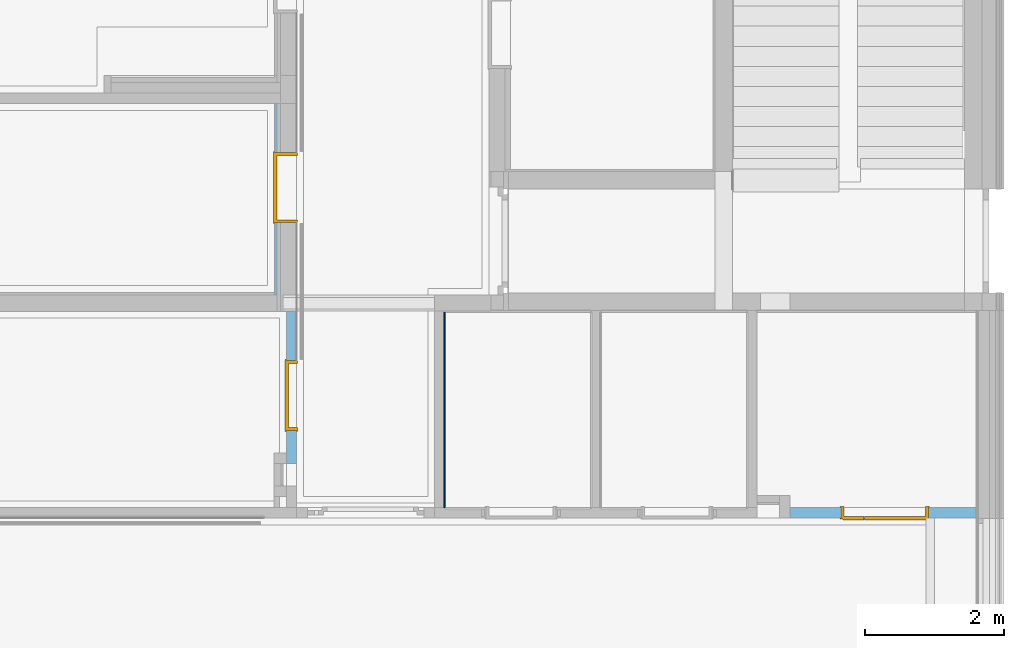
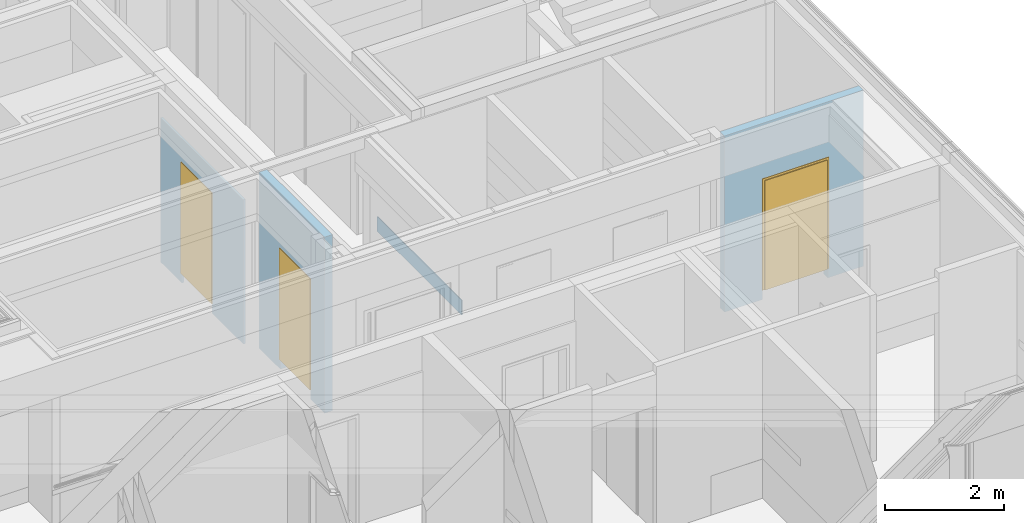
# One storey, part 140 of 207: 3 doors, 1 wall, 3 openings, plus 3 elements that do not belong to this part.
"""IFC4 building model written with IfcOpenShell, lengths in metres."""

import ifcopenshell
import ifcopenshell.guid

model = None  # the IFC model being written
_history = None  # IfcOwnerHistory: only IFC2X3 demands one
_inside = {}  # id of a spatial element -> (the spatial element, [elements in it])
_under = {}  # id of a project, library or spatial element -> (it, [spatial elements below it])
_declared = {}  # id of a project -> (the project, [libraries it declares])
_typed = {}  # id of a type object -> (the type object, [elements of that type])
_made_of = {}  # id of a material, layer set ... -> (it, [elements and type objects made of it])


def new_model(schema):
    """Start an empty IFC model of exactly this schema.

    Asked for "IFC4X3", IfcOpenShell would pick the latest addendum, in which some entities
    have other attributes; the version numbers below select the first issue.
    IFC2X3 requires an IfcOwnerHistory on every rooted entity: one is made here for all.
    """
    global model, _history
    if schema == "IFC4X3":
        model = ifcopenshell.file(schema_version=(4, 3, 0, 0))
    else:
        model = ifcopenshell.file(schema=schema)
    _inside.clear()
    _under.clear()
    _declared.clear()
    _typed.clear()
    _made_of.clear()
    _history = None
    if model.schema == "IFC2X3":
        org = make("IfcOrganization", Name="unknown")
        user = make(
            "IfcPersonAndOrganization",
            ThePerson=make("IfcPerson", FamilyName="unknown"),
            TheOrganization=org,
        )
        app = make(
            "IfcApplication",
            ApplicationDeveloper=org,
            Version="unknown",
            ApplicationFullName="unknown",
            ApplicationIdentifier="unknown",
        )
        _history = make(
            "IfcOwnerHistory",
            OwningUser=user,
            OwningApplication=app,
            ChangeAction="ADDED",
            CreationDate=0,
        )
    return model


def make(cls, **values):
    """One entity of the class cls with the attributes given. An attribute that is None is left unset."""
    return model.create_entity(
        cls, **{name: value for name, value in values.items() if value is not None}
    )


def entity(cls, *values):
    """Any entity or typed value of the class cls, its attributes in the order of the schema. None: left unset."""
    e = model.create_entity(cls)
    for i, value in enumerate(values):
        if value is not None:
            e[i] = value
    return e


def rooted(cls, **values):
    """An entity with a GlobalId (a new one), such as an element, a storey or a relation."""
    return make(cls, GlobalId=ifcopenshell.guid.new(), OwnerHistory=_history, **values)


def si_unit(unit_type, name, prefix=None):
    """IfcSIUnit, for example si_unit("LENGTHUNIT", "METRE", prefix="MILLI")."""
    return make("IfcSIUnit", UnitType=unit_type, Prefix=prefix, Name=name)


def converted_unit(unit_type, name, factor, base, dimensions=None, offset=None):
    """IfcConversionBasedUnit, such as the inch: factor (a typed value) times the base unit."""
    return make(
        "IfcConversionBasedUnit"
        if offset is None
        else "IfcConversionBasedUnitWithOffset",
        ConversionOffset=offset,
        Dimensions=None
        if dimensions is None
        else entity("IfcDimensionalExponents", *dimensions),
        UnitType=unit_type,
        Name=name,
        ConversionFactor=make(
            "IfcMeasureWithUnit", ValueComponent=factor, UnitComponent=base
        ),
    )


def derived_unit(unit_type, elements):
    """IfcDerivedUnit: a product of units, each with its exponent."""
    return make(
        "IfcDerivedUnit",
        Elements=[
            make("IfcDerivedUnitElement", Unit=unit, Exponent=power)
            for unit, power in elements
        ],
        UnitType=unit_type,
    )


def assignment(units):
    """IfcUnitAssignment: the units of a project."""
    return None if units is None else make("IfcUnitAssignment", Units=units)


def point(xyz):
    """IfcCartesianPoint."""
    return None if xyz is None else make("IfcCartesianPoint", Coordinates=xyz)


def direction(xyz):
    """IfcDirection."""
    return None if xyz is None else make("IfcDirection", DirectionRatios=xyz)


def frame(location, z_axis=None, x_axis=None):
    """IfcAxis2Placement3D, a coordinate frame: its origin and axes. An axis left out is left unset."""
    return make(
        "IfcAxis2Placement3D",
        Location=point(location),
        Axis=direction(z_axis),
        RefDirection=direction(x_axis),
    )


def frame_2d(location, x_axis=None):
    """IfcAxis2Placement2D, a coordinate frame in the plane: its origin and x axis."""
    return make(
        "IfcAxis2Placement2D", Location=point(location), RefDirection=direction(x_axis)
    )


def origin():
    """The frame at (0, 0, 0) with its axes left unset."""
    return frame((0.0, 0.0, 0.0))


def origin_with_axes():
    """The frame at (0, 0, 0) with the z axis (0, 0, 1) and the x axis (1, 0, 0) written out."""
    return frame((0.0, 0.0, 0.0), z_axis=(0.0, 0.0, 1.0), x_axis=(1.0, 0.0, 0.0))


def place(relative_to, where):
    """IfcLocalPlacement: puts the frame where relative to a parent placement (None: the world)."""
    return make(
        "IfcLocalPlacement", PlacementRelTo=relative_to, RelativePlacement=where
    )


def context(
    kind, dimensions, precision=None, world=None, true_north=None, identifier=None
):
    """IfcGeometricRepresentationContext, for example the 3D "Model" context."""
    return make(
        "IfcGeometricRepresentationContext",
        ContextIdentifier=identifier,
        ContextType=kind,
        CoordinateSpaceDimension=dimensions,
        Precision=precision,
        WorldCoordinateSystem=world,
        TrueNorth=true_north,
    )


def subcontext(parent, identifier, kind, view, scale=None):
    """IfcGeometricRepresentationSubContext, for example "Body" below "Model"."""
    return make(
        "IfcGeometricRepresentationSubContext",
        ContextIdentifier=identifier,
        ContextType=kind,
        ParentContext=parent,
        TargetScale=scale,
        TargetView=view,
    )


def project(units=None, contexts=None):
    """IfcProject with its units and contexts."""
    return rooted(
        "IfcProject",
        Name="project",
        RepresentationContexts=contexts,
        UnitsInContext=assignment(units),
    )


def spatial(cls, under=None, at=None, **own):
    """A site, building, storey or space (cls), placed at a placement, below another one or the project."""
    s = rooted(cls, ObjectPlacement=at, **own)
    if under is not None:
        _under.setdefault(under.id(), (under, []))[1].append(s)
    return s


def polyline(points):
    """IfcPolyline through the points."""
    return make("IfcPolyline", Points=[point(p) for p in points])


def profile(cls, at=None, kind="AREA", **sizes):
    """A parametric profile (cls). Its sizes go by their IFC names, for example OverallWidth=200.0."""
    return make(cls, ProfileType=kind, Position=at, **sizes)


def rectangle(**sizes):
    """IfcRectangleProfileDef."""
    return profile("IfcRectangleProfileDef", **sizes)


def outline(outer, holes=None, kind="AREA"):
    """IfcArbitraryClosedProfileDef: a profile drawn as a closed curve; with holes, ...WithVoids."""
    if holes is None:
        return make("IfcArbitraryClosedProfileDef", ProfileType=kind, OuterCurve=outer)
    return make(
        "IfcArbitraryProfileDefWithVoids",
        ProfileType=kind,
        OuterCurve=outer,
        InnerCurves=holes,
    )


def extrude(swept, where, along, depth):
    """IfcExtrudedAreaSolid: the profile swept, set in the frame where, extruded along a direction by depth."""
    return make(
        "IfcExtrudedAreaSolid",
        SweptArea=swept,
        Position=where,
        ExtrudedDirection=direction(along),
        Depth=depth,
    )


def faces_of(points, faces, orient=None, outer=None):
    """IfcFace entities. A face is a list of loops; a loop is a list of indices into points, from 0.

    orient and outer hold one flag for each loop. By default every Orientation is true, the
    first loop of a face is its IfcFaceOuterBound and the others are IfcFaceBound.
    """
    made = []
    for i, loops in enumerate(faces):
        bounds = []
        for j, loop in enumerate(loops):
            is_outer = j == 0 if outer is None else outer[i][j]
            bounds.append(
                make(
                    "IfcFaceOuterBound" if is_outer else "IfcFaceBound",
                    Bound=make("IfcPolyLoop", Polygon=[points[k] for k in loop]),
                    Orientation=True if orient is None else orient[i][j],
                )
            )
        made.append(make("IfcFace", Bounds=bounds))
    return made


def faceted_brep(points, faces, orient=None, outer=None, voids=None):
    """IfcFacetedBrep: a solid bounded by flat faces; with voids (closed shells), ...WithVoids."""
    shared = [point(p) for p in points]
    hull = make("IfcClosedShell", CfsFaces=faces_of(shared, faces, orient, outer))
    if voids is None:
        return make("IfcFacetedBrep", Outer=hull)
    return make(
        "IfcFacetedBrepWithVoids",
        Outer=hull,
        Voids=[
            make(cls, CfsFaces=faces_of(shared, fs, o, b)) for cls, fs, o, b in voids
        ],
    )


def shape(context_of_items, identifier, shape_type, items):
    """IfcShapeRepresentation: the items that make up one representation, for example the "Body"."""
    return make(
        "IfcShapeRepresentation",
        ContextOfItems=context_of_items,
        RepresentationIdentifier=identifier,
        RepresentationType=shape_type,
        Items=items,
    )


def source(mapping_origin, context_of_items, identifier, shape_type, items):
    """IfcRepresentationMap: a shape defined once, which mapped items show again and again."""
    return make(
        "IfcRepresentationMap",
        MappingOrigin=mapping_origin,
        MappedRepresentation=shape(context_of_items, identifier, shape_type, items),
    )


def transform(
    local_origin,
    x_axis=None,
    y_axis=None,
    z_axis=None,
    scale=None,
    scale2=None,
    scale3=None,
    uniform=True,
):
    """IfcCartesianTransformationOperator3D, or its non-uniform kind. x_axis, y_axis, z_axis: its Axis1, 2, 3."""
    if uniform:
        return make(
            "IfcCartesianTransformationOperator3D",
            Axis1=direction(x_axis),
            Axis2=direction(y_axis),
            LocalOrigin=point(local_origin),
            Scale=scale,
            Axis3=direction(z_axis),
        )
    return make(
        "IfcCartesianTransformationOperator3DnonUniform",
        Axis1=direction(x_axis),
        Axis2=direction(y_axis),
        LocalOrigin=point(local_origin),
        Scale=scale,
        Axis3=direction(z_axis),
        Scale2=scale2,
        Scale3=scale3,
    )


def mapped(mapping_source, mapping_target):
    """IfcMappedItem: shows the shape of a source again, moved by a transform."""
    return make(
        "IfcMappedItem", MappingSource=mapping_source, MappingTarget=mapping_target
    )


def material(Name=None, Category=None):
    """IfcMaterial."""
    return make("IfcMaterial", Name=Name, Category=Category)


def made_of(thing, what):
    """Note that an element or type object is made of a material, layer set ...; save() writes the relation."""
    if what is not None:
        _made_of.setdefault(what.id(), (what, []))[1].append(thing)
    return thing


def type_object(cls, material=None, **own):
    """A type object (cls), such as IfcWallType, which elements share."""
    return made_of(rooted(cls, **own), material)


def element(
    cls,
    number,
    at=None,
    inside=None,
    cuts=None,
    type_object=None,
    material=None,
    context=None,
    identifier="Body",
    shape_type=None,
    held_by="IfcProductDefinitionShape",
    body=None,
    shapes=None,
    **own,
):
    """One element of the class cls, such as IfcWall. Its Tag is "e" and its number.

    at: its placement. inside: the storey or other place that contains it. cuts: it is an
    opening in that element (IfcRelVoidsElement). A single representation is given by context,
    identifier, shape_type and body (its items); several are given by shapes. held_by: the class
    of the entity that holds the representations. save() writes the other relations.
    """
    e = rooted(cls, Tag="e%d" % number, ObjectPlacement=at, **own)
    if body is not None:
        shapes = [shape(context, identifier, shape_type, body)]
    if shapes is not None:
        e.Representation = make(held_by, Representations=shapes)
    if inside is not None:
        _inside.setdefault(inside.id(), (inside, []))[1].append(e)
    if cuts is not None:
        rooted(
            "IfcRelVoidsElement", RelatingBuildingElement=cuts, RelatedOpeningElement=e
        )
    if type_object is not None:
        _typed.setdefault(type_object.id(), (type_object, []))[1].append(e)
    return made_of(e, material)


def fill(opening, filler):
    """IfcRelFillsElement: the door or window that sits in an opening."""
    return rooted(
        "IfcRelFillsElement",
        RelatingOpeningElement=opening,
        RelatedBuildingElement=filler,
    )


def aggregate(whole, parts):
    """IfcRelAggregates: a whole, such as a stair, and the parts it consists of."""
    return rooted("IfcRelAggregates", RelatingObject=whole, RelatedObjects=parts)


def save(model, path):
    """Write the relations noted so far, then the file.

    IfcRelAggregates (storeys below a building ...), IfcRelContainedInSpatialStructure (elements
    in a storey), IfcRelDefinesByType, IfcRelAssociatesMaterial and IfcRelDeclares: one each for
    every whole, place, type object, material and project.
    """
    for whole, parts in _under.values():
        aggregate(whole, parts)
    for where, things in _inside.values():
        rooted(
            "IfcRelContainedInSpatialStructure",
            RelatedElements=things,
            RelatingStructure=where,
        )
    for kind, things in _typed.values():
        rooted("IfcRelDefinesByType", RelatedObjects=things, RelatingType=kind)
    for what, things in _made_of.values():
        rooted("IfcRelAssociatesMaterial", RelatedObjects=things, RelatingMaterial=what)
    for by, libraries in _declared.values():
        rooted("IfcRelDeclares", RelatingContext=by, RelatedDefinitions=libraries)
    model.write(path)


model = new_model("IFC4")

# Units and contexts
model_context = context("Model", 3, precision=1e-05, world=origin())
body_context = subcontext(model_context, "Body", "Model", "MODEL_VIEW")
ifc_project = project(units=[si_unit("LENGTHUNIT", "METRE"), si_unit("AREAUNIT", "SQUARE_METRE"), si_unit("VOLUMEUNIT", "CUBIC_METRE"), si_unit("MASSUNIT", "GRAM", prefix="KILO"), converted_unit("PLANEANGLEUNIT", "DEGREE", entity("IfcPlaneAngleMeasure", 0.0174532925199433), si_unit("PLANEANGLEUNIT", "RADIAN"), dimensions=[0, 0, 0, 0, 0, 0, 0]), derived_unit("THERMALTRANSMITTANCEUNIT", [(si_unit("POWERUNIT", "WATT"), 1), (si_unit("THERMODYNAMICTEMPERATUREUNIT", "KELVIN"), -1), (si_unit("LENGTHUNIT", "METRE"), -2)]), derived_unit("VOLUMETRICFLOWRATEUNIT", [(si_unit("LENGTHUNIT", "METRE"), 3), (converted_unit("TIMEUNIT", "hour", entity("IfcTimeMeasure", 3600.0), si_unit("TIMEUNIT", "SECOND"), dimensions=[0, 0, 1, 0, 0, 0, 0]), -1), (si_unit("LENGTHUNIT", "METRE"), -1)])], contexts=[model_context])

# Site, building, storey
site_placement = place(None, origin())
site = spatial("IfcSite", under=ifc_project, at=site_placement, Name="Psychiatrie Neubau Wunstorf", CompositionType="ELEMENT")
building_placement = place(site_placement, origin())
building = spatial("IfcBuilding", under=site, at=building_placement, Name="Neubau H2 Stationsgebäude", CompositionType="ELEMENT")
storey_placement = place(building_placement, frame((0.0, 0.0, -0.2)))
storey = spatial("IfcBuildingStorey", under=building, at=storey_placement, Name="H2 Ebene 0", CompositionType="ELEMENT", Elevation=-0.2)

# Wall
wall_1_placement = place(storey_placement, frame((98.207, 7.77500025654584, 1.6)))
element("IfcWall", 1, at=wall_1_placement, inside=storey, Name="WV 1.1", context=body_context, shape_type="Brep", body=[
    faceted_brep([(0.0, 0.0, 0.0), (0.018, 0.0, 0.0), (0.018, 2.82, 0.0), (0.0, 2.82, 0.0), (0.018, 0.0, 0.3), (0.0, 0.0, 0.3), (0.0, 2.82, 0.3), (0.018, 2.82, 0.3)], [[[0, 1, 2, 3]], [[4, 5, 6, 7]], [[1, 0, 5, 4]], [[2, 1, 4, 7]], [[3, 2, 7, 6]], [[0, 3, 6, 5]]], orient=[[False], [False], [False], [False], [False], [False]]),
])

# Wall, opening, door
ifc_material_1 = material(Name="WI-LB")
wall_2_placement = place(storey_placement, frame((95.7609999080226, 13.6109999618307, 0.0), z_axis=(0.0, 0.0, 1.0), x_axis=(0.0, -1.0, 0.0)))
wall_2 = element("IfcWall", 2, at=wall_2_placement, inside=storey, material=ifc_material_1, context=body_context, shape_type="SweptSolid", body=[
    extrude(rectangle(XDim=2.76850006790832, YDim=0.0395, at=frame_2d((1.38425003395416, 0.01975), x_axis=(1.0, 0.0))), origin_with_axes(), (0.0, 0.0, 1.0), 2.95),
])
opening_1_placement = place(wall_2_placement, frame((1.72099996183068, 0.0395, 0.0), z_axis=(0.0, -1.0, 0.0), x_axis=(0.0, 0.0, 1.0)))
opening_1 = element("IfcOpeningElement", 3, at=opening_1_placement, cuts=wall_2, Name="Türöffnung", ObjectType="Opening", context=body_context, shape_type="SweptSolid", body=[
    extrude(outline(polyline([(2.46, 1.01), (2.46, 0.0), (0.0, 0.0), (0.0, 1.01), (2.46, 1.01)])), origin_with_axes(), (0.0, 0.0, 1.0), 0.0395),
])
ifc_material_2 = material(Name="TI-1F-UZ-ZK")
door_type_1 = type_object("IfcDoorType", Name="SMT", OperationType="SINGLE_SWING_RIGHT", ParameterTakesPrecedence=False, PredefinedType="DOOR")
shared_shape_1 = source(origin_with_axes(), body_context, "Body", "Brep", [
    faceted_brep([(1.01, -0.0149999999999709, 2.46), (1.01, -0.0149999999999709, 0.2), (0.969999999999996, -0.0149999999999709, 0.2), (0.969999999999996, -0.0149999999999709, 2.46), (1.01, 0.336500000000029, 0.2), (1.01, 0.336500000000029, 2.46), (0.969999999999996, 0.336500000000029, 2.46), (0.969999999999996, 0.336500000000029, 0.2)], [[[0, 1, 2, 3]], [[4, 5, 6, 7]], [[1, 0, 5, 4]], [[2, 1, 4, 7]], [[3, 2, 7, 6]], [[0, 3, 6, 5]]], orient=[[False], [False], [False], [False], [False], [False]]),
    faceted_brep([(1.01, -0.0149999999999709, 2.475), (1.025, -0.0149999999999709, 2.475), (1.025, -0.0149999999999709, 0.2), (1.01, -0.0149999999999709, 0.2), (1.01, 0.0, 0.2), (1.025, 0.0, 0.2), (1.025, 0.0, 2.475), (1.01, 0.0, 2.475)], [[[0, 1, 2, 3]], [[4, 5, 6, 7]], [[3, 4, 7, 0]], [[2, 5, 4, 3]], [[1, 6, 5, 2]], [[0, 7, 6, 1]]], orient=[[False], [False], [False], [False], [False], [False]]),
    faceted_brep([(1.01, 0.321500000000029, 2.475), (1.025, 0.321500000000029, 2.475), (1.025, 0.321500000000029, 0.2), (1.01, 0.321500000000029, 0.2), (1.01, 0.336500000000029, 0.2), (1.025, 0.336500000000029, 0.2), (1.025, 0.336500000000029, 2.475), (1.01, 0.336500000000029, 2.475)], [[[0, 1, 2, 3]], [[4, 5, 6, 7]], [[3, 4, 7, 0]], [[2, 5, 4, 3]], [[1, 6, 5, 2]], [[0, 7, 6, 1]]], orient=[[False], [False], [False], [False], [False], [False]]),
    faceted_brep([(0.0399999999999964, -0.0149999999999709, 2.46), (0.0399999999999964, -0.0149999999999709, 0.2), (0.0, -0.0149999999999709, 0.2), (0.0, -0.0149999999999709, 2.46), (0.0399999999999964, 0.336500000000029, 0.2), (0.0399999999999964, 0.336500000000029, 2.46), (0.0, 0.336500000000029, 2.46), (0.0, 0.336500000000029, 0.2)], [[[0, 1, 2, 3]], [[4, 5, 6, 7]], [[1, 0, 5, 4]], [[2, 1, 4, 7]], [[3, 2, 7, 6]], [[0, 3, 6, 5]]], orient=[[False], [False], [False], [False], [False], [False]]),
    faceted_brep([(0.0, -0.0149999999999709, 2.475), (0.0, -0.0149999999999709, 0.2), (-0.0150000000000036, -0.0149999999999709, 0.2), (-0.0150000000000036, -0.0149999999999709, 2.475), (0.0, 0.0, 0.2), (0.0, 0.0, 2.475), (-0.0150000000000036, 0.0, 2.475), (-0.0150000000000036, 0.0, 0.2)], [[[0, 1, 2, 3]], [[4, 5, 6, 7]], [[1, 0, 5, 4]], [[2, 1, 4, 7]], [[3, 2, 7, 6]], [[0, 3, 6, 5]]], orient=[[False], [False], [False], [False], [False], [False]]),
    faceted_brep([(0.0, 0.321500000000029, 2.475), (0.0, 0.321500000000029, 0.2), (-0.0150000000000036, 0.321500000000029, 0.2), (-0.0150000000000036, 0.321500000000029, 2.475), (0.0, 0.336500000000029, 0.2), (0.0, 0.336500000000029, 2.475), (-0.0150000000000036, 0.336500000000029, 2.475), (-0.0150000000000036, 0.336500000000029, 0.2)], [[[0, 1, 2, 3]], [[4, 5, 6, 7]], [[1, 0, 5, 4]], [[2, 1, 4, 7]], [[3, 2, 7, 6]], [[0, 3, 6, 5]]], orient=[[False], [False], [False], [False], [False], [False]]),
    faceted_brep([(0.969999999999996, -0.0149999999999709, 2.46), (0.969999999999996, -0.0149999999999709, 2.42), (0.0399999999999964, -0.0149999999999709, 2.42), (0.0399999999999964, -0.0149999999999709, 2.46), (0.969999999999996, 0.336500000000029, 2.42), (0.969999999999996, 0.336500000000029, 2.46), (0.0399999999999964, 0.336500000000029, 2.46), (0.0399999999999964, 0.336500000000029, 2.42)], [[[0, 1, 2, 3]], [[4, 5, 6, 7]], [[1, 0, 5, 4]], [[2, 1, 4, 7]], [[3, 2, 7, 6]], [[0, 3, 6, 5]]], orient=[[False], [False], [False], [False], [False], [False]]),
    faceted_brep([(1.01, -0.0149999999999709, 2.475), (1.01, -0.0149999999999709, 2.46), (0.0, -0.0149999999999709, 2.46), (0.0, -0.0149999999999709, 2.475), (1.01, 0.0, 2.46), (1.01, 0.0, 2.475), (0.0, 0.0, 2.475), (0.0, 0.0, 2.46)], [[[0, 1, 2, 3]], [[4, 5, 6, 7]], [[1, 0, 5, 4]], [[2, 1, 4, 7]], [[3, 2, 7, 6]], [[0, 3, 6, 5]]], orient=[[False], [False], [False], [False], [False], [False]]),
    faceted_brep([(1.01, 0.321500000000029, 2.475), (1.01, 0.321500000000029, 2.46), (0.0, 0.321500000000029, 2.46), (0.0, 0.321500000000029, 2.475), (1.01, 0.336500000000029, 2.46), (1.01, 0.336500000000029, 2.475), (0.0, 0.336500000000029, 2.475), (0.0, 0.336500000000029, 2.46)], [[[0, 1, 2, 3]], [[4, 5, 6, 7]], [[1, 0, 5, 4]], [[2, 1, 4, 7]], [[3, 2, 7, 6]], [[0, 3, 6, 5]]], orient=[[False], [False], [False], [False], [False], [False]]),
    faceted_brep([(0.984999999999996, 0.287500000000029, 2.435), (0.984999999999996, 0.287500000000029, 0.2), (0.0249999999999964, 0.287500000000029, 0.2), (0.0249999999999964, 0.287500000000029, 2.435), (0.984999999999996, 0.337500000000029, 0.2), (0.984999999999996, 0.337500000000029, 2.435), (0.0249999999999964, 0.337500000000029, 2.435), (0.0249999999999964, 0.337500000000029, 0.2)], [[[0, 1, 2, 3]], [[4, 5, 6, 7]], [[1, 0, 5, 4]], [[2, 1, 4, 7]], [[3, 2, 7, 6]], [[0, 3, 6, 5]]], orient=[[False], [False], [False], [False], [False], [False]]),
])
door_1_placement = place(opening_1_placement, frame((0.0, 0.0, -0.282), z_axis=(1.0, 0.0, 0.0), x_axis=(0.0, 1.0, 0.0)))
door_1 = element("IfcDoor", 4, at=door_1_placement, inside=storey, type_object=door_type_1, material=ifc_material_2, Name="SMT", OverallHeight=2.46, OverallWidth=1.01, context=body_context, shape_type="MappedRepresentation", body=[
    mapped(shared_shape_1, transform((0.0, 0.0, 0.0), x_axis=(1.0, 0.0, 0.0), y_axis=(0.0, 1.0, 0.0), z_axis=(0.0, 0.0, 1.0), scale=1.0)),
])
fill(opening_1, door_1)

ifc_material_3 = material(Name="WI-LB")
wall_3_placement = place(storey_placement, frame((103.2, 7.62499989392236, 0.0)))
wall_3 = element("IfcWall", 5, at=wall_3_placement, inside=storey, material=ifc_material_3, context=body_context, shape_type="SweptSolid", body=[
    extrude(rectangle(XDim=2.689, YDim=0.15, at=frame_2d((1.3445, 0.075), x_axis=(1.0, 0.0))), origin_with_axes(), (0.0, 0.0, 1.0), 3.6),
])
opening_2_placement = place(wall_3_placement, frame((2.0, 0.15, 0.0), z_axis=(0.0, -1.0, 0.0), x_axis=(0.0, 0.0, 1.0)))
opening_2 = element("IfcOpeningElement", 6, at=opening_2_placement, cuts=wall_3, Name="Türöffnung", ObjectType="Opening", context=body_context, shape_type="SweptSolid", body=[
    extrude(outline(polyline([(2.46, 1.26), (2.46, 0.0), (0.0, 0.0), (0.0, 1.26), (2.46, 1.26)])), origin_with_axes(), (0.0, 0.0, 1.0), 0.15),
])
ifc_material_4 = material(Name="TI-1F-UZ-D")
door_type_2 = type_object("IfcDoorType", Name="SMT", OperationType="DOUBLE_DOOR_SINGLE_SWING", ParameterTakesPrecedence=False, PredefinedType="DOOR")
shared_shape_2 = source(origin_with_axes(), body_context, "Body", "Brep", [
    faceted_brep([(-0.1, 0.0250000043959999, 0.0), (0.0, 0.0250000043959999, 0.0), (0.0, 0.124999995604, 0.0), (-0.1, 0.124999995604, 0.0), (-0.1, 0.124999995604, 3.6), (0.0, 0.124999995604, 3.6), (0.0, 0.0250000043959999, 3.6), (-0.1, 0.0250000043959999, 3.6)], [[[0, 1, 2, 3]], [[4, 5, 6, 7]], [[3, 4, 7, 0]], [[2, 5, 4, 3]], [[1, 6, 5, 2]], [[0, 7, 6, 1]]], orient=[[False], [False], [False], [False], [False], [False]]),
    faceted_brep([(1.26, 0.025000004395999, 0.0), (1.36, 0.025000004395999, 0.0), (1.36, 0.124999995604, 0.0), (1.26, 0.124999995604, 0.0), (1.26, 0.124999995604, 3.6), (1.36, 0.124999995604, 3.6), (1.36, 0.025000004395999, 3.6), (1.26, 0.025000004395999, 3.6)], [[[0, 1, 2, 3]], [[4, 5, 6, 7]], [[3, 4, 7, 0]], [[2, 5, 4, 3]], [[1, 6, 5, 2]], [[0, 7, 6, 1]]], orient=[[False], [False], [False], [False], [False], [False]]),
    faceted_brep([(0.0, 0.0250000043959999, 2.46), (1.26, 0.025000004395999, 2.46), (1.26, 0.124999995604, 2.46), (0.0, 0.124999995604, 2.46), (0.0, 0.124999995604, 2.56), (1.26, 0.124999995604, 2.56), (1.26, 0.025000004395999, 2.56), (0.0, 0.0250000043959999, 2.56)], [[[0, 1, 2, 3]], [[4, 5, 6, 7]], [[3, 4, 7, 0]], [[2, 5, 4, 3]], [[1, 6, 5, 2]], [[0, 7, 6, 1]]], orient=[[False], [False], [False], [False], [False], [False]]),
])
shared_shape_3 = source(origin_with_axes(), body_context, "Body", "Brep", [
    faceted_brep([(0.0, -0.015, 2.46), (0.04, -0.015, 2.46), (0.04, -0.015, 0.2), (0.0, -0.015, 0.2), (0.0, 0.165, 0.2), (0.04, 0.165, 0.2), (0.04, 0.165, 2.46), (0.0, 0.165, 2.46)], [[[0, 1, 2, 3]], [[4, 5, 6, 7]], [[3, 4, 7, 0]], [[2, 5, 4, 3]], [[1, 6, 5, 2]], [[0, 7, 6, 1]]], orient=[[False], [False], [False], [False], [False], [False]]),
    faceted_brep([(0.0, -0.015, 2.475), (0.0, -0.015, 0.2), (-0.015, -0.015, 0.2), (-0.015, -0.015, 2.475), (0.0, 0.0, 0.2), (0.0, 0.0, 2.475), (-0.015, 0.0, 2.475), (-0.015, 0.0, 0.2)], [[[0, 1, 2, 3]], [[4, 5, 6, 7]], [[1, 0, 5, 4]], [[2, 1, 4, 7]], [[3, 2, 7, 6]], [[0, 3, 6, 5]]], orient=[[False], [False], [False], [False], [False], [False]]),
    faceted_brep([(0.0, 0.15, 2.475), (0.0, 0.15, 0.2), (-0.015, 0.15, 0.2), (-0.015, 0.15, 2.475), (0.0, 0.165, 0.2), (0.0, 0.165, 2.475), (-0.015, 0.165, 2.475), (-0.015, 0.165, 0.2)], [[[0, 1, 2, 3]], [[4, 5, 6, 7]], [[1, 0, 5, 4]], [[2, 1, 4, 7]], [[3, 2, 7, 6]], [[0, 3, 6, 5]]], orient=[[False], [False], [False], [False], [False], [False]]),
    faceted_brep([(1.22, -0.0150000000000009, 2.46), (1.26, -0.0150000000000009, 2.46), (1.26, -0.015, 0.2), (1.22, -0.015, 0.2), (1.22, 0.165, 0.2), (1.26, 0.165, 0.2), (1.26, 0.164999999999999, 2.46), (1.22, 0.164999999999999, 2.46)], [[[0, 1, 2, 3]], [[4, 5, 6, 7]], [[3, 4, 7, 0]], [[2, 5, 4, 3]], [[1, 6, 5, 2]], [[0, 7, 6, 1]]], orient=[[False], [False], [False], [False], [False], [False]]),
    faceted_brep([(1.26, -0.0150000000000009, 2.475), (1.275, -0.0150000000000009, 2.475), (1.275, -0.015, 0.2), (1.26, -0.015, 0.2), (1.26, 0.0, 0.2), (1.275, 0.0, 0.2), (1.275, 0.0, 2.475), (1.26, 0.0, 2.475)], [[[0, 1, 2, 3]], [[4, 5, 6, 7]], [[3, 4, 7, 0]], [[2, 5, 4, 3]], [[1, 6, 5, 2]], [[0, 7, 6, 1]]], orient=[[False], [False], [False], [False], [False], [False]]),
    faceted_brep([(1.26, 0.149999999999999, 2.475), (1.275, 0.149999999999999, 2.475), (1.275, 0.15, 0.2), (1.26, 0.15, 0.2), (1.26, 0.165, 0.2), (1.275, 0.165, 0.2), (1.275, 0.164999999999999, 2.475), (1.26, 0.164999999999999, 2.475)], [[[0, 1, 2, 3]], [[4, 5, 6, 7]], [[3, 4, 7, 0]], [[2, 5, 4, 3]], [[1, 6, 5, 2]], [[0, 7, 6, 1]]], orient=[[False], [False], [False], [False], [False], [False]]),
    faceted_brep([(0.04, -0.015, 2.46), (1.22, -0.0150000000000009, 2.46), (1.22, -0.0150000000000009, 2.42), (0.04, -0.015, 2.42), (0.04, 0.165, 2.42), (1.22, 0.164999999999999, 2.42), (1.22, 0.164999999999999, 2.46), (0.04, 0.165, 2.46)], [[[0, 1, 2, 3]], [[4, 5, 6, 7]], [[3, 4, 7, 0]], [[2, 5, 4, 3]], [[1, 6, 5, 2]], [[0, 7, 6, 1]]], orient=[[False], [False], [False], [False], [False], [False]]),
    faceted_brep([(0.0, -0.015, 2.475), (1.26, -0.0150000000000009, 2.475), (1.26, -0.0150000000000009, 2.46), (0.0, -0.015, 2.46), (0.0, 0.0, 2.46), (1.26, 0.0, 2.46), (1.26, 0.0, 2.475), (0.0, 0.0, 2.475)], [[[0, 1, 2, 3]], [[4, 5, 6, 7]], [[3, 4, 7, 0]], [[2, 5, 4, 3]], [[1, 6, 5, 2]], [[0, 7, 6, 1]]], orient=[[False], [False], [False], [False], [False], [False]]),
    faceted_brep([(0.0, 0.15, 2.475), (1.26, 0.149999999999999, 2.475), (1.26, 0.149999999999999, 2.46), (0.0, 0.15, 2.46), (0.0, 0.165, 2.46), (1.26, 0.164999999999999, 2.46), (1.26, 0.164999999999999, 2.475), (0.0, 0.165, 2.475)], [[[0, 1, 2, 3]], [[4, 5, 6, 7]], [[3, 4, 7, 0]], [[2, 5, 4, 3]], [[1, 6, 5, 2]], [[0, 7, 6, 1]]], orient=[[False], [False], [False], [False], [False], [False]]),
    faceted_brep([(0.025, 0.13, 2.435), (0.925, 0.129999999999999, 2.435), (0.925, 0.13, 0.2), (0.025, 0.13, 0.2), (0.025, 0.18, 0.2), (0.925, 0.18, 0.2), (0.925, 0.179999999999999, 2.435), (0.025, 0.18, 2.435)], [[[0, 1, 2, 3]], [[4, 5, 6, 7]], [[3, 4, 7, 0]], [[2, 5, 4, 3]], [[1, 6, 5, 2]], [[0, 7, 6, 1]]], orient=[[False], [False], [False], [False], [False], [False]]),
    faceted_brep([(0.926, 0.129999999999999, 2.435), (1.235, 0.129999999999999, 2.435), (1.235, 0.13, 0.2), (0.926, 0.13, 0.2), (0.926, 0.18, 0.2), (1.235, 0.18, 0.2), (1.235, 0.179999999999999, 2.435), (0.926, 0.179999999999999, 2.435)], [[[0, 1, 2, 3]], [[4, 5, 6, 7]], [[3, 4, 7, 0]], [[2, 5, 4, 3]], [[1, 6, 5, 2]], [[0, 7, 6, 1]]], orient=[[False], [False], [False], [False], [False], [False]]),
])
door_2_placement = place(opening_2_placement, frame((0.0, 0.0, 0.0), z_axis=(1.0, 0.0, 0.0), x_axis=(0.0, 1.0, 0.0)))
door_2 = element("IfcDoor", 7, at=door_2_placement, inside=storey, type_object=door_type_2, material=ifc_material_4, Name="SMT", OverallHeight=2.46, OverallWidth=1.26, context=body_context, shape_type="MappedRepresentation", body=[
    mapped(shared_shape_2, transform((0.0, 0.0, 0.0), x_axis=(1.0, 0.0, 0.0), y_axis=(0.0, 1.0, 0.0), z_axis=(0.0, 0.0, 1.0), scale=1.0)),
    mapped(shared_shape_3, transform((0.0, 0.0, 0.0), x_axis=(1.0, 0.0, 0.0), y_axis=(0.0, 1.0, 0.0), z_axis=(0.0, 0.0, 1.0), scale=1.0)),
])
fill(opening_2, door_2)

ifc_material_5 = material(Name="WI-LB")
wall_4_placement = place(storey_placement, frame((95.9325000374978, 10.6104998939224, 0.0), z_axis=(0.0, 0.0, 1.0), x_axis=(0.0, -1.0, 0.0)))
wall_4 = element("IfcWall", 8, at=wall_4_placement, inside=storey, material=ifc_material_5, context=body_context, shape_type="SweptSolid", body=[
    extrude(rectangle(XDim=2.19550000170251, YDim=0.15, at=frame_2d((1.09775000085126, 0.075), x_axis=(1.0, 0.0))), origin_with_axes(), (0.0, 0.0, 1.0), 3.6),
])
opening_3_placement = place(wall_4_placement, frame((1.72049989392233, 0.15, 0.0), z_axis=(0.0, -1.0, 0.0), x_axis=(0.0, 0.0, 1.0)))
opening_3 = element("IfcOpeningElement", 9, at=opening_3_placement, cuts=wall_4, Name="Türöffnung", ObjectType="Opening", context=body_context, shape_type="SweptSolid", body=[
    extrude(outline(polyline([(2.46, 1.01), (2.46, 0.0), (0.0, 0.0), (0.0, 1.01), (2.46, 1.01)])), origin_with_axes(), (0.0, 0.0, 1.0), 0.15),
])
ifc_material_6 = material(Name="TI-1F-UZ-ZK")
door_type_3 = type_object("IfcDoorType", Name="SMT", OperationType="SINGLE_SWING_LEFT", ParameterTakesPrecedence=False, PredefinedType="DOOR")
shared_shape_4 = source(origin_with_axes(), body_context, "Body", "Brep", [
    faceted_brep([(-0.0650000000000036, 0.0250000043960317, 0.0), (-0.0250000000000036, 0.0250000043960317, 0.0), (-0.0250000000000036, 0.124999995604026, 0.0), (-0.0650000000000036, 0.124999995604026, 0.0), (-0.0650000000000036, 0.124999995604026, 3.6), (-0.0250000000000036, 0.124999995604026, 3.6), (-0.0250000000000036, 0.0250000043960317, 3.6), (-0.0650000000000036, 0.0250000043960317, 3.6)], [[[0, 1, 2, 3]], [[4, 5, 6, 7]], [[3, 4, 7, 0]], [[2, 5, 4, 3]], [[1, 6, 5, 2]], [[0, 7, 6, 1]]], orient=[[False], [False], [False], [False], [False], [False]]),
    faceted_brep([(1.035, 0.0250000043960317, 0.0), (1.075, 0.0250000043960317, 0.0), (1.075, 0.124999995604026, 0.0), (1.035, 0.124999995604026, 0.0), (1.035, 0.124999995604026, 3.6), (1.075, 0.124999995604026, 3.6), (1.075, 0.0250000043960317, 3.6), (1.035, 0.0250000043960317, 3.6)], [[[0, 1, 2, 3]], [[4, 5, 6, 7]], [[3, 4, 7, 0]], [[2, 5, 4, 3]], [[1, 6, 5, 2]], [[0, 7, 6, 1]]], orient=[[False], [False], [False], [False], [False], [False]]),
    faceted_brep([(-0.0250000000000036, 0.0250000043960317, 2.485), (1.035, 0.0250000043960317, 2.485), (1.035, 0.124999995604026, 2.485), (-0.0250000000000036, 0.124999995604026, 2.485), (-0.0250000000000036, 0.124999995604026, 2.525), (1.035, 0.124999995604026, 2.525), (1.035, 0.0250000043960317, 2.525), (-0.0250000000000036, 0.0250000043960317, 2.525)], [[[0, 1, 2, 3]], [[4, 5, 6, 7]], [[3, 4, 7, 0]], [[2, 5, 4, 3]], [[1, 6, 5, 2]], [[0, 7, 6, 1]]], orient=[[False], [False], [False], [False], [False], [False]]),
])
shared_shape_5 = source(origin_with_axes(), body_context, "Body", "Brep", [
    faceted_brep([(0.0, -0.0149999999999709, 2.46), (0.0399999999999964, -0.0149999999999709, 2.46), (0.0399999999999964, -0.0149999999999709, 0.2), (0.0, -0.0149999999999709, 0.2), (0.0, 0.165000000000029, 0.2), (0.0399999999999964, 0.165000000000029, 0.2), (0.0399999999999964, 0.165000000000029, 2.46), (0.0, 0.165000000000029, 2.46)], [[[0, 1, 2, 3]], [[4, 5, 6, 7]], [[3, 4, 7, 0]], [[2, 5, 4, 3]], [[1, 6, 5, 2]], [[0, 7, 6, 1]]], orient=[[False], [False], [False], [False], [False], [False]]),
    faceted_brep([(0.0, -0.0149999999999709, 2.475), (0.0, -0.0149999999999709, 0.2), (-0.0150000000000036, -0.0149999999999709, 0.2), (-0.0150000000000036, -0.0149999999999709, 2.475), (0.0, 0.0, 0.2), (0.0, 0.0, 2.475), (-0.0150000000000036, 0.0, 2.475), (-0.0150000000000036, 0.0, 0.2)], [[[0, 1, 2, 3]], [[4, 5, 6, 7]], [[1, 0, 5, 4]], [[2, 1, 4, 7]], [[3, 2, 7, 6]], [[0, 3, 6, 5]]], orient=[[False], [False], [False], [False], [False], [False]]),
    faceted_brep([(0.0, 0.150000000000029, 2.475), (0.0, 0.150000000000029, 0.2), (-0.0150000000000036, 0.150000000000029, 0.2), (-0.0150000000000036, 0.150000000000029, 2.475), (0.0, 0.165000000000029, 0.2), (0.0, 0.165000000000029, 2.475), (-0.0150000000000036, 0.165000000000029, 2.475), (-0.0150000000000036, 0.165000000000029, 0.2)], [[[0, 1, 2, 3]], [[4, 5, 6, 7]], [[1, 0, 5, 4]], [[2, 1, 4, 7]], [[3, 2, 7, 6]], [[0, 3, 6, 5]]], orient=[[False], [False], [False], [False], [False], [False]]),
    faceted_brep([(0.969999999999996, -0.0149999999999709, 2.46), (1.01, -0.0149999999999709, 2.46), (1.01, -0.0149999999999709, 0.2), (0.969999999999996, -0.0149999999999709, 0.2), (0.969999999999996, 0.165000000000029, 0.2), (1.01, 0.165000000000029, 0.2), (1.01, 0.165000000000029, 2.46), (0.969999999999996, 0.165000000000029, 2.46)], [[[0, 1, 2, 3]], [[4, 5, 6, 7]], [[3, 4, 7, 0]], [[2, 5, 4, 3]], [[1, 6, 5, 2]], [[0, 7, 6, 1]]], orient=[[False], [False], [False], [False], [False], [False]]),
    faceted_brep([(1.01, -0.0149999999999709, 2.475), (1.025, -0.0149999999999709, 2.475), (1.025, -0.0149999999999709, 0.2), (1.01, -0.0149999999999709, 0.2), (1.01, 0.0, 0.2), (1.025, 0.0, 0.2), (1.025, 0.0, 2.475), (1.01, 0.0, 2.475)], [[[0, 1, 2, 3]], [[4, 5, 6, 7]], [[3, 4, 7, 0]], [[2, 5, 4, 3]], [[1, 6, 5, 2]], [[0, 7, 6, 1]]], orient=[[False], [False], [False], [False], [False], [False]]),
    faceted_brep([(1.01, 0.150000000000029, 2.475), (1.025, 0.150000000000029, 2.475), (1.025, 0.150000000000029, 0.2), (1.01, 0.150000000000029, 0.2), (1.01, 0.165000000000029, 0.2), (1.025, 0.165000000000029, 0.2), (1.025, 0.165000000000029, 2.475), (1.01, 0.165000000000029, 2.475)], [[[0, 1, 2, 3]], [[4, 5, 6, 7]], [[3, 4, 7, 0]], [[2, 5, 4, 3]], [[1, 6, 5, 2]], [[0, 7, 6, 1]]], orient=[[False], [False], [False], [False], [False], [False]]),
    faceted_brep([(0.0399999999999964, -0.0149999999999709, 2.46), (0.969999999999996, -0.0149999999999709, 2.46), (0.969999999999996, -0.0149999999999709, 2.42), (0.0399999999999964, -0.0149999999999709, 2.42), (0.0399999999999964, 0.165000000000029, 2.42), (0.969999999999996, 0.165000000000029, 2.42), (0.969999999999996, 0.165000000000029, 2.46), (0.0399999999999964, 0.165000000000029, 2.46)], [[[0, 1, 2, 3]], [[4, 5, 6, 7]], [[3, 4, 7, 0]], [[2, 5, 4, 3]], [[1, 6, 5, 2]], [[0, 7, 6, 1]]], orient=[[False], [False], [False], [False], [False], [False]]),
    faceted_brep([(0.0, -0.0149999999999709, 2.475), (1.01, -0.0149999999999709, 2.475), (1.01, -0.0149999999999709, 2.46), (0.0, -0.0149999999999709, 2.46), (0.0, 0.0, 2.46), (1.01, 0.0, 2.46), (1.01, 0.0, 2.475), (0.0, 0.0, 2.475)], [[[0, 1, 2, 3]], [[4, 5, 6, 7]], [[3, 4, 7, 0]], [[2, 5, 4, 3]], [[1, 6, 5, 2]], [[0, 7, 6, 1]]], orient=[[False], [False], [False], [False], [False], [False]]),
    faceted_brep([(0.0, 0.150000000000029, 2.475), (1.01, 0.150000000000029, 2.475), (1.01, 0.150000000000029, 2.46), (0.0, 0.150000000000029, 2.46), (0.0, 0.165000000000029, 2.46), (1.01, 0.165000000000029, 2.46), (1.01, 0.165000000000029, 2.475), (0.0, 0.165000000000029, 2.475)], [[[0, 1, 2, 3]], [[4, 5, 6, 7]], [[3, 4, 7, 0]], [[2, 5, 4, 3]], [[1, 6, 5, 2]], [[0, 7, 6, 1]]], orient=[[False], [False], [False], [False], [False], [False]]),
    faceted_brep([(0.0249999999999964, 0.116000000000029, 2.435), (0.984999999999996, 0.116000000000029, 2.435), (0.984999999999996, 0.116000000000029, 0.2), (0.0249999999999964, 0.116000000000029, 0.2), (0.0249999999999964, 0.166000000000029, 0.2), (0.984999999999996, 0.166000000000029, 0.2), (0.984999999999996, 0.166000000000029, 2.435), (0.0249999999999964, 0.166000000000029, 2.435)], [[[0, 1, 2, 3]], [[4, 5, 6, 7]], [[3, 4, 7, 0]], [[2, 5, 4, 3]], [[1, 6, 5, 2]], [[0, 7, 6, 1]]], orient=[[False], [False], [False], [False], [False], [False]]),
])
door_3_placement = place(opening_3_placement, frame((0.0, 0.0, 0.0), z_axis=(1.0, 0.0, 0.0), x_axis=(0.0, 1.0, 0.0)))
door_3 = element("IfcDoor", 10, at=door_3_placement, inside=storey, type_object=door_type_3, material=ifc_material_6, Name="SMT", OverallHeight=2.46, OverallWidth=1.01, context=body_context, shape_type="MappedRepresentation", body=[
    mapped(shared_shape_4, transform((0.0, 0.0, 0.0), x_axis=(1.0, 0.0, 0.0), y_axis=(0.0, 1.0, 0.0), z_axis=(0.0, 0.0, 1.0), scale=1.0)),
    mapped(shared_shape_5, transform((0.0, 0.0, 0.0), x_axis=(1.0, 0.0, 0.0), y_axis=(0.0, 1.0, 0.0), z_axis=(0.0, 0.0, 1.0), scale=1.0)),
])
fill(opening_3, door_3)

save(model, "model.ifc")
